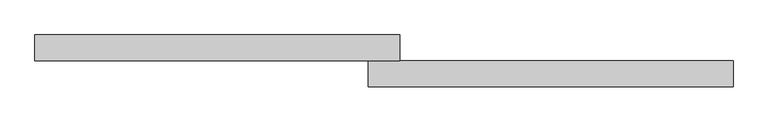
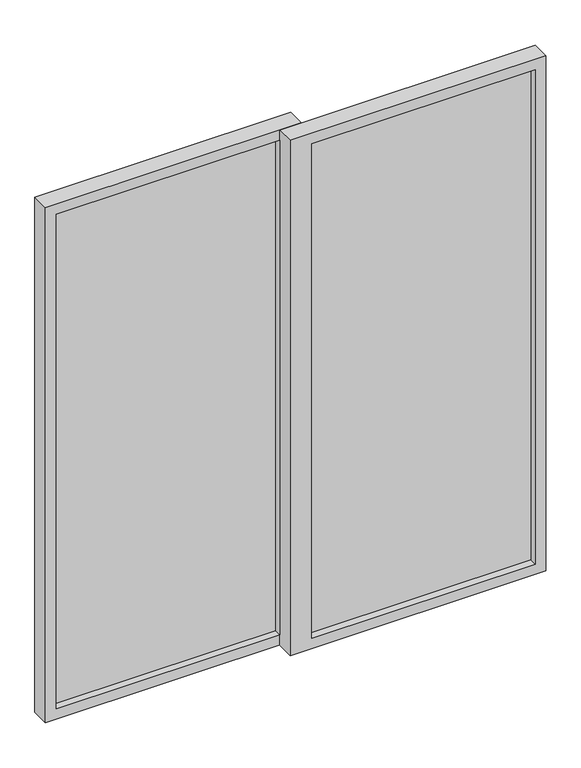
"""IFC4 building model written with IfcOpenShell, lengths in millimetres: plate geometry, 教学楼 - 窗嵌板：双扇推拉窗 : 教学楼 - 窗嵌板：双扇推拉窗."""

from ifc_helpers import new_model, si_unit, frame, origin, place, context, project, spatial, polyline, outline, extrude, source, transform, mapped, element, save


def plate_bfe47d88(model_context):
    return source(origin(), model_context, "Body", "SweptSolid", [
        extrude(outline(polyline([(-30.0, 20.0), (-645.0000002, 20.0), (-645.0000002, 30.0), (-30.0, 30.0), (-30.0, 20.0)])), frame((0.0, 0.0, 30.0), z_axis=(0.0, 0.0, 1.0), x_axis=(1.0, 0.0, 0.0)), (0.0, 0.0, 1.0), 1440.0),
        extrude(outline(polyline([(1500.0, -675.0000002), (0.0, -675.0000002), (0.0, 30.0), (1500.0, 30.0), (1500.0, -675.0000002)]), holes=[polyline([(1470.0, -645.0000002), (1470.0, -30.0), (30.0, -30.0), (30.0, -645.0000002), (1470.0, -645.0000002)])]), frame((0.0, 0.0, 0.0), z_axis=(0.0, 1.0, 0.0), x_axis=(0.0, 0.0, 1.0)), (0.0, 0.0, 1.0), 50.0),
        extrude(outline(polyline([(645.0000002, -30.0), (30.0, -30.0), (30.0, -20.0), (645.0000002, -20.0), (645.0000002, -30.0)])), frame((0.0, 0.0, 30.0), z_axis=(0.0, 0.0, 1.0), x_axis=(1.0, 0.0, 0.0)), (0.0, 0.0, 1.0), 1440.0),
        extrude(outline(polyline([(1500.0, -30.0), (0.0, -30.0), (0.0, 675.0000002), (1500.0, 675.0000002), (1500.0, -30.0)]), holes=[polyline([(1470.0, 30.0), (1470.0, 645.0000002), (30.0, 645.0000002), (30.0, 30.0), (1470.0, 30.0)])]), frame((0.0, -50.0, 0.0), z_axis=(0.0, 1.0, 0.0), x_axis=(0.0, 0.0, 1.0)), (0.0, 0.0, 1.0), 50.0),
    ])


if __name__ == "__main__":
    model = new_model("IFC4")
    model_context = context("Model", 3, world=origin())
    ifc_project = project(units=[si_unit("LENGTHUNIT", "METRE", prefix="MILLI")], contexts=[model_context])
    site = spatial("IfcSite", under=ifc_project)
    building = spatial("IfcBuilding", under=site)
    placement = place(None, origin())
    plate_shape = plate_bfe47d88(model_context)
    element("IfcPlate", 1, ObjectType="教学楼 - 窗嵌板：双扇推拉窗 : 教学楼 - 窗嵌板：双扇推拉窗", at=placement, inside=building, context=model_context, shape_type="MappedRepresentation", body=[
        mapped(plate_shape, transform((0.0, 0.0, 0.0), x_axis=(1.0, 0.0, 0.0), y_axis=(0.0, 1.0, 0.0), z_axis=(0.0, 0.0, 1.0))),
    ])
    save(model, "model.ifc")
